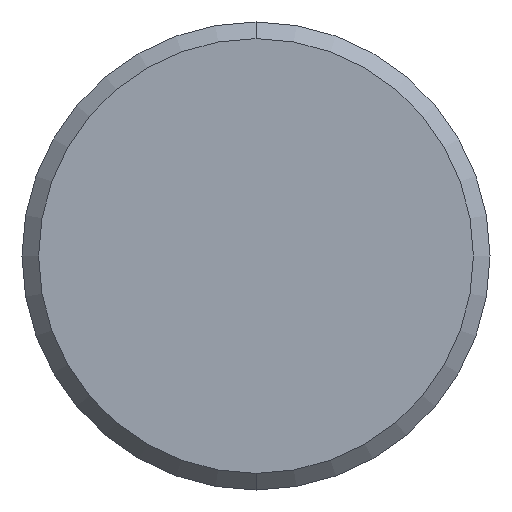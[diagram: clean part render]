
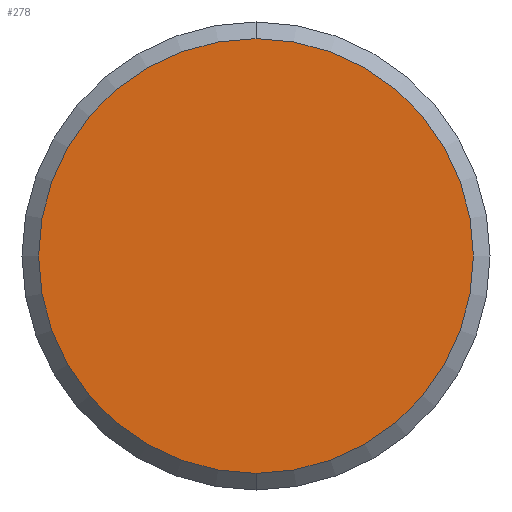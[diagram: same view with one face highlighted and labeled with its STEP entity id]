
A CAD part, front view. The second image highlights one B-rep face of the part: STEP entity #278.
In plain terms, the highlighted planar face has unit normal (0, -1, 0).
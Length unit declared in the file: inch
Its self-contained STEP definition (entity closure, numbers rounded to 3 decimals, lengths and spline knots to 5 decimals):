
#12 = AXIS2_PLACEMENT_3D ( 'NONE', #1688, #1689, #1690 ) ;
#57 = AXIS2_PLACEMENT_3D ( 'NONE', #1794, #1795, #1796 ) ;
#113 = EDGE_CURVE ( 'NONE', #615, #1977, #1031, .T. ) ;
#138 = AXIS2_PLACEMENT_3D ( 'NONE', #813, #814, #815 ) ;
#146 = EDGE_CURVE ( 'NONE', #1977, #615, #1066, .T. ) ;
#278 = ADVANCED_FACE ( 'NONE', ( #1103 ), #799, .T. ) ;
#615 = VERTEX_POINT ( 'NONE', #1351 ) ;
#799 = PLANE ( 'NONE',  #138 ) ;
#813 = CARTESIAN_POINT ( 'NONE',  ( -1.75827, -0.37825, 0. ) ) ;
#814 = DIRECTION ( 'NONE',  ( 0., -1., 0. ) ) ;
#815 = DIRECTION ( 'NONE',  ( 0., 0., -1. ) ) ;
#975 = ORIENTED_EDGE ( 'NONE', *, *, #113, .F. ) ;
#976 = ORIENTED_EDGE ( 'NONE', *, *, #146, .F. ) ;
#993 = EDGE_LOOP ( 'NONE', ( #976, #975 ) ) ;
#1031 = CIRCLE ( 'NONE', #57, 0.8175 ) ;
#1066 = CIRCLE ( 'NONE', #12, 0.8175 ) ;
#1103 = FACE_OUTER_BOUND ( 'NONE', #993, .T. ) ;
#1351 = CARTESIAN_POINT ( 'NONE',  ( -2.44227, -0.37825, -0.8175 ) ) ;
#1374 = CARTESIAN_POINT ( 'NONE',  ( -2.44227, -0.37825, 0.8175 ) ) ;
#1688 = CARTESIAN_POINT ( 'NONE',  ( -2.44227, -0.37825, 0. ) ) ;
#1689 = DIRECTION ( 'NONE',  ( 0., 1., 0. ) ) ;
#1690 = DIRECTION ( 'NONE',  ( 0., 0., 1. ) ) ;
#1794 = CARTESIAN_POINT ( 'NONE',  ( -2.44227, -0.37825, 0. ) ) ;
#1795 = DIRECTION ( 'NONE',  ( 0., 1., 0. ) ) ;
#1796 = DIRECTION ( 'NONE',  ( 0., 0., 1. ) ) ;
#1977 = VERTEX_POINT ( 'NONE', #1374 ) ;
